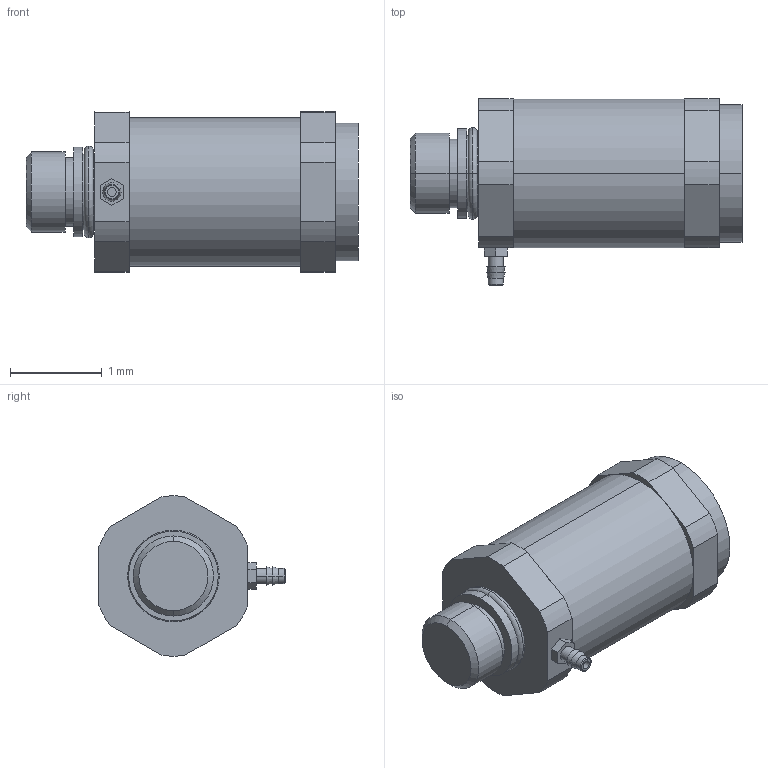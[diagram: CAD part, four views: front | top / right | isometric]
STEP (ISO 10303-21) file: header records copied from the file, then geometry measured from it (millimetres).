
FILE_DESCRIPTION((''),'2;1');
FILE_NAME('UF4.stp','2017-11-07T11:26:08',(''),(''),'Mechanical Desktop 2011','Mechanical Desktop 2011',', , ');
FILE_SCHEMA(('CONFIG_CONTROL_DESIGN'));
Length unit declared in the file: millimetre
Products named in the file (1): Product
Bounding box: 3.62 x 2.03 x 1.75 mm (x, y, z)
Volume: 6.5 mm3; surface area: 35.5 mm2
Topology: 6 solids, 6 shells, 77 faces, 170 edges, 110 vertices
Faces by surface type: plane 35, cylinder 30, torus 6, cone 6
Entity records: 2237 total; most frequent: DIRECTION 406, CARTESIAN_POINT 358, ORIENTED_EDGE 340, EDGE_CURVE 170, AXIS2_PLACEMENT_3D 158, VERTEX_POINT 110, VECTOR 90, LINE 90
